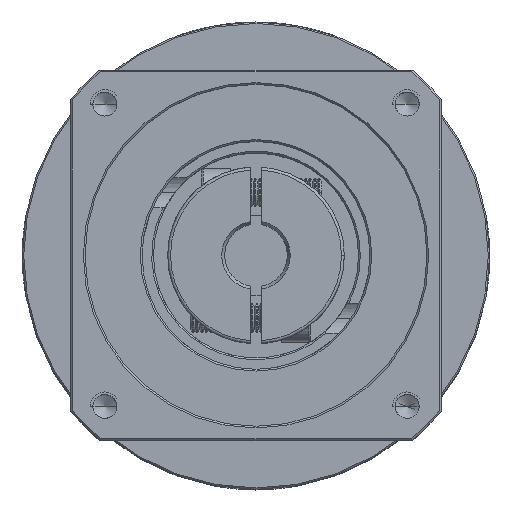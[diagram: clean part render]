
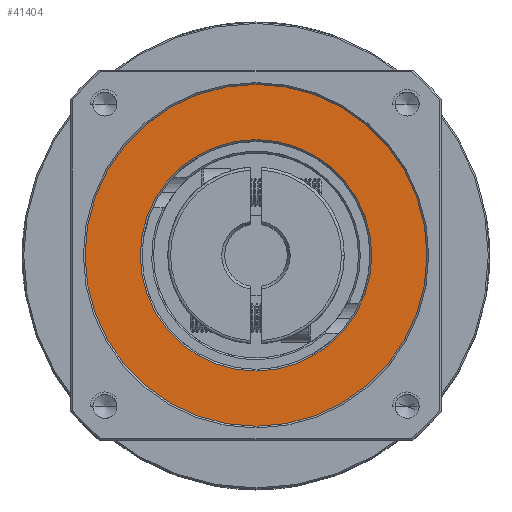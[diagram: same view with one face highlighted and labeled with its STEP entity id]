
A CAD part, top view. The second image highlights one B-rep face of the part: STEP entity #41404.
In plain terms, the highlighted planar face has unit normal (0, 0, 1).
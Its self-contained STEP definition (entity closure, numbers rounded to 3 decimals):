
#1546 = DIRECTION ( 'NONE',  ( 0., 0., -1. ) ) ;
#1681 = EDGE_LOOP ( 'NONE', ( #49230, #129884 ) ) ;
#1830 = FACE_BOUND ( 'NONE', #1681, .T. ) ;
#6685 = DIRECTION ( 'NONE',  ( 1., 0., 0. ) ) ;
#7610 = DIRECTION ( 'NONE',  ( 0., 0., 1. ) ) ;
#7651 = PLANE ( 'NONE',  #62991 ) ;
#9287 = CIRCLE ( 'NONE', #12719, 30. ) ;
#12231 = EDGE_LOOP ( 'NONE', ( #46328, #106468 ) ) ;
#12719 = AXIS2_PLACEMENT_3D ( 'NONE', #86323, #25738, #96497 ) ;
#15507 = CIRCLE ( 'NONE', #29198, 20.3 ) ;
#19801 = EDGE_CURVE ( 'NONE', #45950, #102085, #64643, .T. ) ;
#25738 = DIRECTION ( 'NONE',  ( 0., 0., 1. ) ) ;
#29198 = AXIS2_PLACEMENT_3D ( 'NONE', #62105, #1546, #72364 ) ;
#29745 = CIRCLE ( 'NONE', #86197, 30. ) ;
#31878 = FACE_OUTER_BOUND ( 'NONE', #12231, .T. ) ;
#32104 = EDGE_CURVE ( 'NONE', #35919, #63411, #29745, .T. ) ;
#35919 = VERTEX_POINT ( 'NONE', #58727 ) ;
#41404 = ADVANCED_FACE ( 'NONE', ( #1830, #31878 ), #7651, .T. ) ;
#41659 = CARTESIAN_POINT ( 'NONE',  ( -45.541, 24.936, 5.575 ) ) ;
#45950 = VERTEX_POINT ( 'NONE', #62440 ) ;
#46328 = ORIENTED_EDGE ( 'NONE', *, *, #88540, .T. ) ;
#48370 = CARTESIAN_POINT ( 'NONE',  ( -65.841, 24.936, 5.575 ) ) ;
#49230 = ORIENTED_EDGE ( 'NONE', *, *, #85265, .T. ) ;
#58531 = DIRECTION ( 'NONE',  ( 1., 0., 0. ) ) ;
#58727 = CARTESIAN_POINT ( 'NONE',  ( -95.841, 24.936, 5.575 ) ) ;
#62105 = CARTESIAN_POINT ( 'NONE',  ( -65.841, 24.936, 5.575 ) ) ;
#62440 = CARTESIAN_POINT ( 'NONE',  ( -86.141, 24.936, 5.575 ) ) ;
#62991 = AXIS2_PLACEMENT_3D ( 'NONE', #48370, #119047, #58531 ) ;
#63411 = VERTEX_POINT ( 'NONE', #126832 ) ;
#64643 = CIRCLE ( 'NONE', #118470, 20.3 ) ;
#67333 = DIRECTION ( 'NONE',  ( 0., 0., -1. ) ) ;
#68254 = CARTESIAN_POINT ( 'NONE',  ( -65.841, 24.936, 5.575 ) ) ;
#72364 = DIRECTION ( 'NONE',  ( 1., 0., 0. ) ) ;
#78431 = DIRECTION ( 'NONE',  ( 1., 0., 0. ) ) ;
#85265 = EDGE_CURVE ( 'NONE', #102085, #45950, #15507, .T. ) ;
#86197 = AXIS2_PLACEMENT_3D ( 'NONE', #68254, #7610, #78431 ) ;
#86323 = CARTESIAN_POINT ( 'NONE',  ( -65.841, 24.936, 5.575 ) ) ;
#88540 = EDGE_CURVE ( 'NONE', #63411, #35919, #9287, .T. ) ;
#96497 = DIRECTION ( 'NONE',  ( 1., 0., 0. ) ) ;
#102085 = VERTEX_POINT ( 'NONE', #41659 ) ;
#106468 = ORIENTED_EDGE ( 'NONE', *, *, #32104, .T. ) ;
#118470 = AXIS2_PLACEMENT_3D ( 'NONE', #127723, #67333, #6685 ) ;
#119047 = DIRECTION ( 'NONE',  ( 0., 0., 1. ) ) ;
#126832 = CARTESIAN_POINT ( 'NONE',  ( -35.841, 24.936, 5.575 ) ) ;
#127723 = CARTESIAN_POINT ( 'NONE',  ( -65.841, 24.936, 5.575 ) ) ;
#129884 = ORIENTED_EDGE ( 'NONE', *, *, #19801, .T. ) ;
